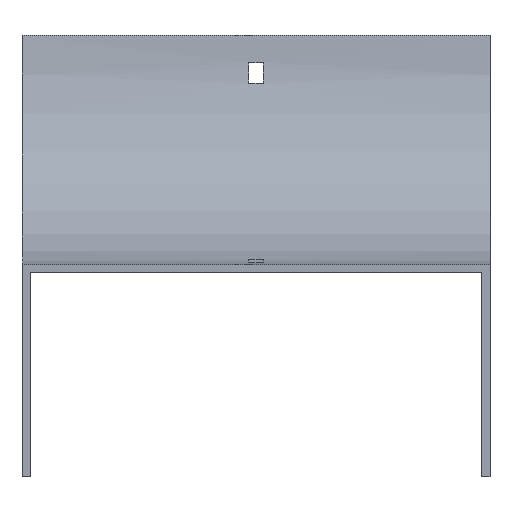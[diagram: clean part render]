
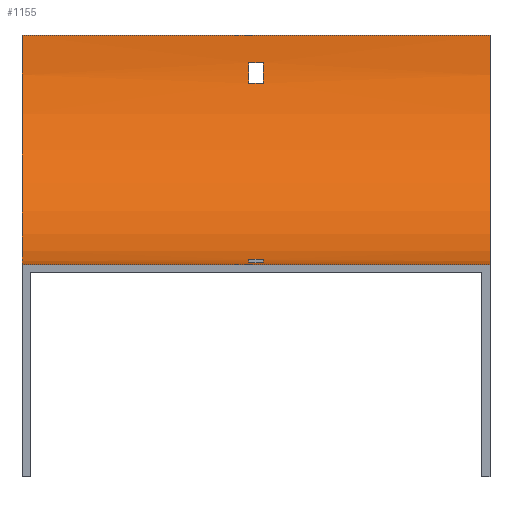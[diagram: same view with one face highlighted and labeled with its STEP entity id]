
A CAD part, front view. The second image highlights one B-rep face of the part: STEP entity #1155.
In plain terms, the highlighted cylindrical face has radius 100 mm (diameter 200 mm), a partial arc.
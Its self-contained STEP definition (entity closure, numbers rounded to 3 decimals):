
#10 = VECTOR ( 'NONE', #1034, 1000. ) ;
#19 = ORIENTED_EDGE ( 'NONE', *, *, #1241, .F. ) ;
#34 = FACE_OUTER_BOUND ( 'NONE', #1269, .T. ) ;
#39 = VERTEX_POINT ( 'NONE', #914 ) ;
#73 = DIRECTION ( 'NONE',  ( -1., 0., 0. ) ) ;
#98 = DIRECTION ( 'NONE',  ( -1., 0., 0. ) ) ;
#107 = VECTOR ( 'NONE', #73, 1000. ) ;
#108 = ORIENTED_EDGE ( 'NONE', *, *, #1455, .T. ) ;
#120 = AXIS2_PLACEMENT_3D ( 'NONE', #1489, #1612, #1099 ) ;
#168 = FACE_BOUND ( 'NONE', #1693, .T. ) ;
#186 = VECTOR ( 'NONE', #1510, 1000. ) ;
#193 = DIRECTION ( 'NONE',  ( 0., 1., 0. ) ) ;
#201 = CARTESIAN_POINT ( 'NONE',  ( -3.25, -100., 0. ) ) ;
#212 = VERTEX_POINT ( 'NONE', #882 ) ;
#219 = EDGE_CURVE ( 'NONE', #1396, #643, #1146, .T. ) ;
#220 = LINE ( 'NONE', #987, #186 ) ;
#226 = DIRECTION ( 'NONE',  ( 0., 0., 1. ) ) ;
#228 = DIRECTION ( 'NONE',  ( 1., 0., 0. ) ) ;
#240 = EDGE_CURVE ( 'NONE', #625, #1246, #1543, .T. ) ;
#247 = VERTEX_POINT ( 'NONE', #490 ) ;
#251 = EDGE_CURVE ( 'NONE', #399, #1335, #1471, .T. ) ;
#307 = AXIS2_PLACEMENT_3D ( 'NONE', #507, #228, #906 ) ;
#381 = EDGE_LOOP ( 'NONE', ( #785, #756, #667, #661 ) ) ;
#399 = VERTEX_POINT ( 'NONE', #764 ) ;
#420 = DIRECTION ( 'NONE',  ( 0., -1., 0. ) ) ;
#454 = FACE_BOUND ( 'NONE', #381, .T. ) ;
#490 = CARTESIAN_POINT ( 'NONE',  ( 3.25, -79., -97.77 ) ) ;
#507 = CARTESIAN_POINT ( 'NONE',  ( -3.25, -100., 0. ) ) ;
#542 = CARTESIAN_POINT ( 'NONE',  ( 102., 0., 0. ) ) ;
#559 = CARTESIAN_POINT ( 'NONE',  ( 3.25, -100., 0. ) ) ;
#587 = CARTESIAN_POINT ( 'NONE',  ( 102., -100., -100. ) ) ;
#611 = CARTESIAN_POINT ( 'NONE',  ( 102., -100., 0. ) ) ;
#625 = VERTEX_POINT ( 'NONE', #1134 ) ;
#643 = VERTEX_POINT ( 'NONE', #1536 ) ;
#651 = ORIENTED_EDGE ( 'NONE', *, *, #1470, .T. ) ;
#661 = ORIENTED_EDGE ( 'NONE', *, *, #240, .F. ) ;
#662 = CARTESIAN_POINT ( 'NONE',  ( -3.25, -79., -97.77 ) ) ;
#667 = ORIENTED_EDGE ( 'NONE', *, *, #1490, .F. ) ;
#701 = DIRECTION ( 'NONE',  ( -1., 0., 0. ) ) ;
#730 = AXIS2_PLACEMENT_3D ( 'NONE', #611, #98, #226 ) ;
#736 = AXIS2_PLACEMENT_3D ( 'NONE', #965, #1353, #1477 ) ;
#739 = AXIS2_PLACEMENT_3D ( 'NONE', #201, #1360, #193 ) ;
#742 = CARTESIAN_POINT ( 'NONE',  ( 102., -88., -99.277 ) ) ;
#756 = ORIENTED_EDGE ( 'NONE', *, *, #957, .F. ) ;
#764 = CARTESIAN_POINT ( 'NONE',  ( 102., 0., 0. ) ) ;
#785 = ORIENTED_EDGE ( 'NONE', *, *, #1231, .F. ) ;
#787 = AXIS2_PLACEMENT_3D ( 'NONE', #559, #1080, #420 ) ;
#805 = VERTEX_POINT ( 'NONE', #662 ) ;
#855 = VERTEX_POINT ( 'NONE', #1389 ) ;
#857 = EDGE_CURVE ( 'NONE', #1302, #212, #863, .T. ) ;
#863 = CIRCLE ( 'NONE', #120, 100. ) ;
#873 = VECTOR ( 'NONE', #1581, 1000. ) ;
#882 = CARTESIAN_POINT ( 'NONE',  ( -102., -100., -100. ) ) ;
#906 = DIRECTION ( 'NONE',  ( 0., 0., 1. ) ) ;
#914 = CARTESIAN_POINT ( 'NONE',  ( 3.25, -2.23, -21. ) ) ;
#957 = EDGE_CURVE ( 'NONE', #247, #805, #1107, .T. ) ;
#965 = CARTESIAN_POINT ( 'NONE',  ( 3.25, -100., 0. ) ) ;
#987 = CARTESIAN_POINT ( 'NONE',  ( 102., -2.23, -21. ) ) ;
#1006 = EDGE_CURVE ( 'NONE', #855, #1396, #1368, .T. ) ;
#1020 = ORIENTED_EDGE ( 'NONE', *, *, #1628, .T. ) ;
#1030 = VECTOR ( 'NONE', #1401, 1000. ) ;
#1034 = DIRECTION ( 'NONE',  ( -1., 0., 0. ) ) ;
#1071 = ORIENTED_EDGE ( 'NONE', *, *, #1006, .T. ) ;
#1072 = CARTESIAN_POINT ( 'NONE',  ( -3.25, -0.723, -12. ) ) ;
#1078 = ORIENTED_EDGE ( 'NONE', *, *, #251, .F. ) ;
#1080 = DIRECTION ( 'NONE',  ( 1., 0., 0. ) ) ;
#1099 = DIRECTION ( 'NONE',  ( 0., 0., 1. ) ) ;
#1103 = CARTESIAN_POINT ( 'NONE',  ( -102., 0., 0. ) ) ;
#1107 = LINE ( 'NONE', #1299, #10 ) ;
#1120 = CARTESIAN_POINT ( 'NONE',  ( 3.25, -88., -99.277 ) ) ;
#1121 = DIRECTION ( 'NONE',  ( 1., 0., 0. ) ) ;
#1134 = CARTESIAN_POINT ( 'NONE',  ( -3.25, -88., -99.277 ) ) ;
#1146 = LINE ( 'NONE', #1671, #1544 ) ;
#1153 = CIRCLE ( 'NONE', #739, 100. ) ;
#1155 = ADVANCED_FACE ( 'NONE', ( #34, #168, #454 ), #1333, .F. ) ;
#1231 = EDGE_CURVE ( 'NONE', #805, #625, #1153, .T. ) ;
#1235 = CARTESIAN_POINT ( 'NONE',  ( 102., -100., -100. ) ) ;
#1241 = EDGE_CURVE ( 'NONE', #1335, #212, #1637, .T. ) ;
#1246 = VERTEX_POINT ( 'NONE', #1120 ) ;
#1269 = EDGE_LOOP ( 'NONE', ( #1316, #19, #1078, #651 ) ) ;
#1299 = CARTESIAN_POINT ( 'NONE',  ( 102., -79., -97.77 ) ) ;
#1302 = VERTEX_POINT ( 'NONE', #1103 ) ;
#1316 = ORIENTED_EDGE ( 'NONE', *, *, #857, .T. ) ;
#1323 = DIRECTION ( 'NONE',  ( 0., 0., 1. ) ) ;
#1333 = CYLINDRICAL_SURFACE ( 'NONE', #1341, 100. ) ;
#1335 = VERTEX_POINT ( 'NONE', #587 ) ;
#1341 = AXIS2_PLACEMENT_3D ( 'NONE', #1452, #701, #1323 ) ;
#1353 = DIRECTION ( 'NONE',  ( -1., 0., 0. ) ) ;
#1360 = DIRECTION ( 'NONE',  ( -1., 0., 0. ) ) ;
#1368 = CIRCLE ( 'NONE', #307, 100. ) ;
#1389 = CARTESIAN_POINT ( 'NONE',  ( -3.25, -2.23, -21. ) ) ;
#1396 = VERTEX_POINT ( 'NONE', #1072 ) ;
#1401 = DIRECTION ( 'NONE',  ( 1., 0., 0. ) ) ;
#1446 = LINE ( 'NONE', #542, #873 ) ;
#1452 = CARTESIAN_POINT ( 'NONE',  ( 102., -100., 0. ) ) ;
#1455 = EDGE_CURVE ( 'NONE', #643, #39, #1610, .T. ) ;
#1470 = EDGE_CURVE ( 'NONE', #399, #1302, #1446, .T. ) ;
#1471 = CIRCLE ( 'NONE', #730, 100. ) ;
#1477 = DIRECTION ( 'NONE',  ( 0., 0., -1. ) ) ;
#1489 = CARTESIAN_POINT ( 'NONE',  ( -102., -100., 0. ) ) ;
#1490 = EDGE_CURVE ( 'NONE', #1246, #247, #1685, .T. ) ;
#1510 = DIRECTION ( 'NONE',  ( -1., 0., 0. ) ) ;
#1536 = CARTESIAN_POINT ( 'NONE',  ( 3.25, -0.723, -12. ) ) ;
#1543 = LINE ( 'NONE', #742, #1030 ) ;
#1544 = VECTOR ( 'NONE', #1121, 1000. ) ;
#1581 = DIRECTION ( 'NONE',  ( -1., 0., 0. ) ) ;
#1610 = CIRCLE ( 'NONE', #736, 100. ) ;
#1612 = DIRECTION ( 'NONE',  ( -1., 0., 0. ) ) ;
#1628 = EDGE_CURVE ( 'NONE', #39, #855, #220, .T. ) ;
#1637 = LINE ( 'NONE', #1235, #107 ) ;
#1671 = CARTESIAN_POINT ( 'NONE',  ( 102., -0.723, -12. ) ) ;
#1674 = ORIENTED_EDGE ( 'NONE', *, *, #219, .T. ) ;
#1685 = CIRCLE ( 'NONE', #787, 100. ) ;
#1693 = EDGE_LOOP ( 'NONE', ( #1020, #1071, #1674, #108 ) ) ;
